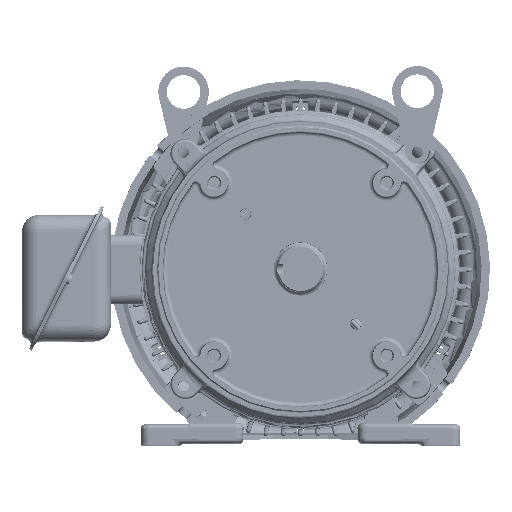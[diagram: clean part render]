
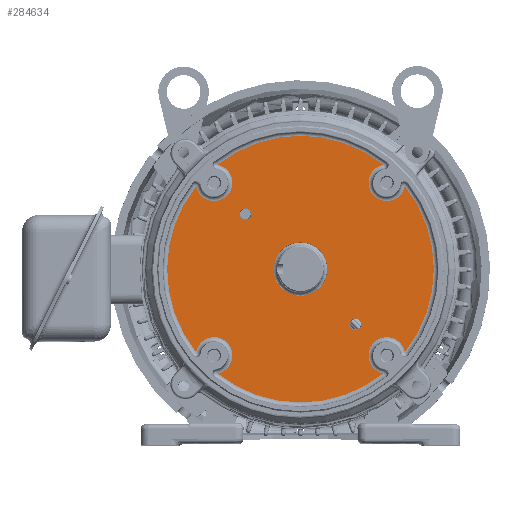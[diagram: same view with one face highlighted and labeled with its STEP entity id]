
A CAD part, top view. The second image highlights one B-rep face of the part: STEP entity #284634.
In plain terms, the highlighted planar face has unit normal (0, 0, 1) as drawn and (0, 0, -1) by its records, which use the part's own axes.
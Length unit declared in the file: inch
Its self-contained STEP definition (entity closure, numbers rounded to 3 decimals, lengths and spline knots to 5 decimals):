
#267785=CARTESIAN_POINT('',(-1.63518,-1.63518,-1.391));
#267786=DIRECTION('',(0.,0.,1.));
#267787=DIRECTION('',(-1.,0.,0.));
#267788=AXIS2_PLACEMENT_3D('',#267785,#267786,#267787);
#267790=CARTESIAN_POINT('',(-1.63518,-1.63518,-1.391));
#267791=DIRECTION('',(0.,0.,1.));
#267792=DIRECTION('',(1.,0.,0.));
#267793=AXIS2_PLACEMENT_3D('',#267790,#267791,#267792);
#267795=CARTESIAN_POINT('',(1.63518,1.63518,-1.391));
#267796=DIRECTION('',(0.,0.,1.));
#267797=DIRECTION('',(-1.,0.,0.));
#267798=AXIS2_PLACEMENT_3D('',#267795,#267796,#267797);
#267800=CARTESIAN_POINT('',(1.63518,1.63518,-1.391));
#267801=DIRECTION('',(0.,0.,1.));
#267802=DIRECTION('',(1.,0.,0.));
#267803=AXIS2_PLACEMENT_3D('',#267800,#267801,#267802);
#267805=CARTESIAN_POINT('',(0.,0.,-1.391));
#267806=DIRECTION('',(0.,0.,1.));
#267807=DIRECTION('',(-1.,0.,0.));
#267808=AXIS2_PLACEMENT_3D('',#267805,#267806,#267807);
#267810=CARTESIAN_POINT('',(0.,0.,-1.391));
#267811=DIRECTION('',(0.,0.,1.));
#267812=DIRECTION('',(1.,0.,0.));
#267813=AXIS2_PLACEMENT_3D('',#267810,#267811,#267812);
#267825=CARTESIAN_POINT('',(0.,0.,-1.391));
#267826=DIRECTION('',(0.,0.,-1.));
#267827=DIRECTION('',(-0.782,-0.623,0.));
#267828=AXIS2_PLACEMENT_3D('',#267825,#267826,#267827);
#272493=CARTESIAN_POINT('',(0.,0.,-1.391));
#272494=DIRECTION('',(0.,0.,-1.));
#272495=DIRECTION('',(-0.623,0.782,0.));
#272496=AXIS2_PLACEMENT_3D('',#272493,#272494,#272495);
#272573=CARTESIAN_POINT('',(-2.56326,2.56326,-1.391));
#272574=DIRECTION('',(0.,0.,1.));
#272575=DIRECTION('',(-0.983,-0.182,0.));
#272576=AXIS2_PLACEMENT_3D('',#272573,#272574,#272575);
#272593=CARTESIAN_POINT('',(2.56326,2.56326,-1.391));
#272594=DIRECTION('',(0.,0.,1.));
#272595=DIRECTION('',(-0.182,0.983,0.));
#272596=AXIS2_PLACEMENT_3D('',#272593,#272594,#272595);
#272643=CARTESIAN_POINT('',(0.,0.,-1.391));
#272644=DIRECTION('',(0.,0.,-1.));
#272645=DIRECTION('',(0.782,0.623,0.));
#272646=AXIS2_PLACEMENT_3D('',#272643,#272644,#272645);
#272693=CARTESIAN_POINT('',(2.56326,-2.56326,-1.391));
#272694=DIRECTION('',(0.,0.,1.));
#272695=DIRECTION('',(0.983,0.182,0.));
#272696=AXIS2_PLACEMENT_3D('',#272693,#272694,#272695);
#272743=CARTESIAN_POINT('',(0.,0.,-1.391));
#272744=DIRECTION('',(0.,0.,-1.));
#272745=DIRECTION('',(0.623,-0.782,0.));
#272746=AXIS2_PLACEMENT_3D('',#272743,#272744,#272745);
#272793=CARTESIAN_POINT('',(-2.56326,-2.56326,-1.391));
#272794=DIRECTION('',(0.,0.,1.));
#272795=DIRECTION('',(0.182,-0.983,0.));
#272796=AXIS2_PLACEMENT_3D('',#272793,#272794,#272795);
#277899=CARTESIAN_POINT('',(-3.09683,-2.46469,-1.391));
#277900=CARTESIAN_POINT('',(-3.09683,2.46469,-1.391));
#277901=VERTEX_POINT('',#277899);
#277902=VERTEX_POINT('',#277900);
#277907=CARTESIAN_POINT('',(-2.46469,-3.09683,-1.391));
#277908=VERTEX_POINT('',#277907);
#277913=CARTESIAN_POINT('',(2.46469,-3.09683,-1.391));
#277914=VERTEX_POINT('',#277913);
#277919=CARTESIAN_POINT('',(3.09683,-2.46469,-1.391));
#277920=VERTEX_POINT('',#277919);
#277925=CARTESIAN_POINT('',(3.09683,2.46469,-1.391));
#277926=VERTEX_POINT('',#277925);
#277931=CARTESIAN_POINT('',(2.46469,3.09683,-1.391));
#277932=VERTEX_POINT('',#277931);
#277937=CARTESIAN_POINT('',(-2.46469,3.09683,-1.391));
#277938=VERTEX_POINT('',#277937);
#277992=CARTESIAN_POINT('',(-1.80668,-1.63518,-1.391));
#277993=CARTESIAN_POINT('',(-1.46368,-1.63518,-1.391));
#277994=VERTEX_POINT('',#277992);
#277995=VERTEX_POINT('',#277993);
#278000=CARTESIAN_POINT('',(1.46368,1.63518,-1.391));
#278001=CARTESIAN_POINT('',(1.80668,1.63518,-1.391));
#278002=VERTEX_POINT('',#278000);
#278003=VERTEX_POINT('',#278001);
#278036=CARTESIAN_POINT('',(-0.7925,0.,-1.391));
#278037=CARTESIAN_POINT('',(0.7925,0.,-1.391));
#278038=VERTEX_POINT('',#278036);
#278039=VERTEX_POINT('',#278037);
#284594=CARTESIAN_POINT('',(0.,0.,-1.391));
#284595=DIRECTION('',(0.,0.,-1.));
#284596=DIRECTION('',(1.,0.,0.));
#284597=AXIS2_PLACEMENT_3D('',#284594,#284595,#284596);
#284598=PLANE('',#284597);
#284600=ORIENTED_EDGE('',*,*,#284599,.F.);
#284602=ORIENTED_EDGE('',*,*,#284601,.F.);
#284604=ORIENTED_EDGE('',*,*,#284603,.F.);
#284606=ORIENTED_EDGE('',*,*,#284605,.F.);
#284608=ORIENTED_EDGE('',*,*,#284607,.F.);
#284610=ORIENTED_EDGE('',*,*,#284609,.F.);
#284612=ORIENTED_EDGE('',*,*,#284611,.F.);
#284614=ORIENTED_EDGE('',*,*,#284613,.F.);
#284615=EDGE_LOOP('',(#284600,#284602,#284604,#284606,#284608,#284610,#284612,
#284614));
#284616=FACE_OUTER_BOUND('',#284615,.F.);
#284618=ORIENTED_EDGE('',*,*,#284617,.F.);
#284620=ORIENTED_EDGE('',*,*,#284619,.F.);
#284621=EDGE_LOOP('',(#284618,#284620));
#284622=FACE_BOUND('',#284621,.F.);
#284623=ORIENTED_EDGE('',*,*,#284584,.F.);
#284625=ORIENTED_EDGE('',*,*,#284624,.F.);
#284626=EDGE_LOOP('',(#284623,#284625));
#284627=FACE_BOUND('',#284626,.F.);
#284629=ORIENTED_EDGE('',*,*,#284628,.F.);
#284631=ORIENTED_EDGE('',*,*,#284630,.F.);
#284632=EDGE_LOOP('',(#284629,#284631));
#284633=FACE_BOUND('',#284632,.F.);
#284634=ADVANCED_FACE('',(#284616,#284622,#284627,#284633),#284598,.T.);
#267789=CIRCLE('',#267788,0.1715);
#267794=CIRCLE('',#267793,0.1715);
#267799=CIRCLE('',#267798,0.1715);
#267804=CIRCLE('',#267803,0.1715);
#267809=CIRCLE('',#267808,0.7925);
#267814=CIRCLE('',#267813,0.7925);
#267829=CIRCLE('',#267828,3.95791);
#272497=CIRCLE('',#272496,3.95791);
#272577=CIRCLE('',#272576,0.54259);
#272597=CIRCLE('',#272596,0.54259);
#272647=CIRCLE('',#272646,3.95791);
#272697=CIRCLE('',#272696,0.54259);
#272747=CIRCLE('',#272746,3.95791);
#272797=CIRCLE('',#272796,0.54259);
#284584=EDGE_CURVE('',#278002,#278003,#267799,.T.);
#284599=EDGE_CURVE('',#277901,#277902,#267829,.T.);
#284601=EDGE_CURVE('',#277908,#277901,#272797,.T.);
#284603=EDGE_CURVE('',#277914,#277908,#272747,.T.);
#284605=EDGE_CURVE('',#277920,#277914,#272697,.T.);
#284607=EDGE_CURVE('',#277926,#277920,#272647,.T.);
#284609=EDGE_CURVE('',#277932,#277926,#272597,.T.);
#284611=EDGE_CURVE('',#277938,#277932,#272497,.T.);
#284613=EDGE_CURVE('',#277902,#277938,#272577,.T.);
#284617=EDGE_CURVE('',#277994,#277995,#267789,.T.);
#284619=EDGE_CURVE('',#277995,#277994,#267794,.T.);
#284624=EDGE_CURVE('',#278003,#278002,#267804,.T.);
#284628=EDGE_CURVE('',#278038,#278039,#267809,.T.);
#284630=EDGE_CURVE('',#278039,#278038,#267814,.T.);
